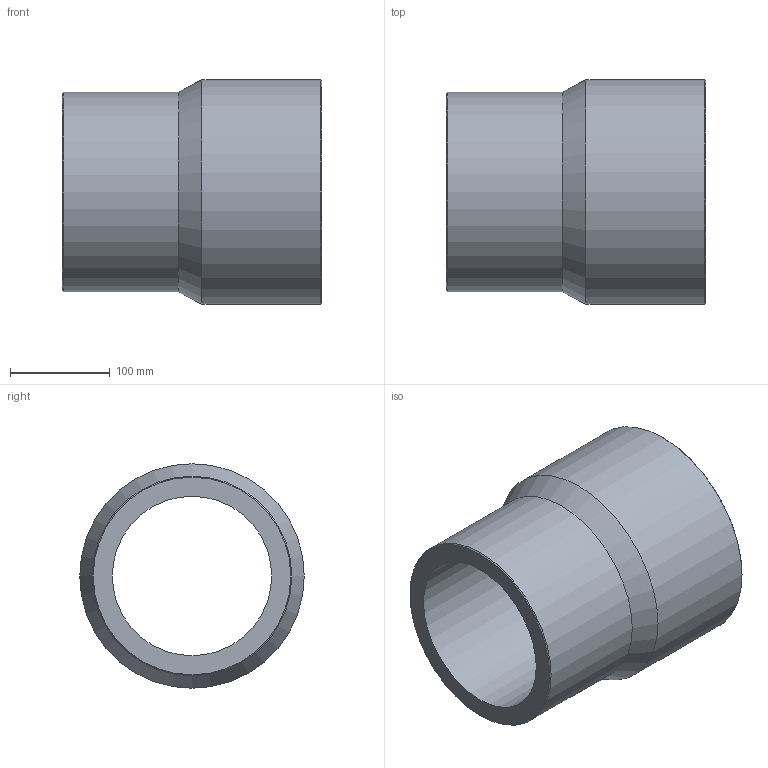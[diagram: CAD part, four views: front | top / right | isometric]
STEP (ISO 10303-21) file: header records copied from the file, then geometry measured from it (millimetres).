
FILE_DESCRIPTION(/* description */ ('Unknown'),/* implementation_level */ '2;1');
FILE_NAME(/* name */ 'RP225200G',/* time_stamp */ '2021-09-16T17:17:01+02:00',/* author */ ('Unknown'),/* organization */ ('Unknown'),/* preprocessor_version */ 'ST-DEVELOPER v16.7',/* originating_system */ 'Solid Edge',/* authorisation */ 'Unknown');
FILE_SCHEMA (('AUTOMOTIVE_DESIGN {1 0 10303 214 3 1 1}'));
Length unit declared in the file: millimetre
Products named in the file (1): RP225200G
Bounding box: 260 x 225 x 225 mm (x, y, z)
Volume: 3573094.8 mm3; surface area: 339045 mm2
Topology: 1 solids, 1 shells, 10 faces, 19 edges, 11 vertices
Faces by surface type: cylinder 4, cone 4, plane 2
Full cylindrical faces by diameter (mm): 159.8 x1, 174.6 x1, 200 x1, 225 x1
Entity records: 238 total; most frequent: DIRECTION 42, CARTESIAN_POINT 31, AXIS2_PLACEMENT_3D 21, ORIENTED_EDGE 20, EDGE_LOOP 20, FACE_BOUND 20, EDGE_CURVE 10, VERTEX_POINT 10
